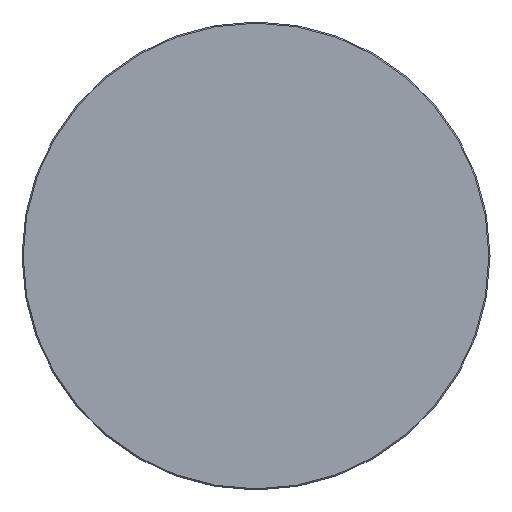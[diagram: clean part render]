
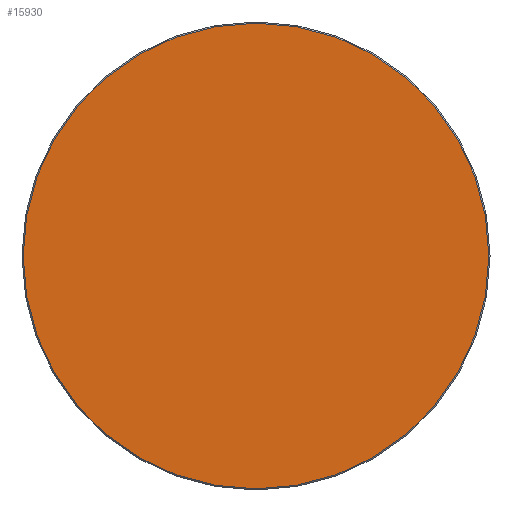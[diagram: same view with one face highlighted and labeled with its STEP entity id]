
A CAD part, top view. The second image highlights one B-rep face of the part: STEP entity #15930.
In plain terms, the highlighted planar face has unit normal (0, 0, 1).
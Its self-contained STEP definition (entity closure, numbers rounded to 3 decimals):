
#15855=CARTESIAN_POINT('',(0.,0.,20.));
#15856=DIRECTION('',(1.,0.,0.));
#15857=DIRECTION('',(0.,0.,1.));
#15858=AXIS2_PLACEMENT_3D('',#15855,#15857,#15856);
#15859=PLANE('',#15858);
#15860=CARTESIAN_POINT('',(-0.5,-298.5,20.));
#15861=VERTEX_POINT('',#15860);
#15862=CARTESIAN_POINT('',(0.5,-298.5,20.));
#15863=VERTEX_POINT('',#15862);
#15864=CARTESIAN_POINT('',(-0.5,-298.5,20.));
#15865=DIRECTION('',(1.,0.,0.));
#15866=VECTOR('',#15865,1.);
#15867=LINE('',#15864,#15866);
#15868=EDGE_CURVE('',#15861,#15863,#15867,.T.);
#15869=ORIENTED_EDGE('E105',*,*,#15868,.T.);
#15870=CARTESIAN_POINT('',(298.5,-0.5,20.));
#15871=VERTEX_POINT('',#15870);
#15872=CARTESIAN_POINT('',(0.5,-0.5,20.));
#15873=DIRECTION('',(0.,-1.,0.));
#15874=DIRECTION('',(0.,-0.,1.));
#15875=AXIS2_PLACEMENT_3D('',#15872,#15874,#15873);
#15876=CIRCLE('',#15875,298.);
#15877=EDGE_CURVE('',#15863,#15871,#15876,.T.);
#15878=ORIENTED_EDGE('E107',*,*,#15877,.T.);
#15879=CARTESIAN_POINT('',(298.5,0.5,20.));
#15880=VERTEX_POINT('',#15879);
#15881=CARTESIAN_POINT('',(298.5,-0.5,20.));
#15882=DIRECTION('',(0.,1.,0.));
#15883=VECTOR('',#15882,1.);
#15884=LINE('',#15881,#15883);
#15885=EDGE_CURVE('',#15871,#15880,#15884,.T.);
#15886=ORIENTED_EDGE('E109',*,*,#15885,.T.);
#15887=CARTESIAN_POINT('',(0.5,298.5,20.));
#15888=VERTEX_POINT('',#15887);
#15889=CARTESIAN_POINT('',(0.5,0.5,20.));
#15890=DIRECTION('',(1.,0.,0.));
#15891=DIRECTION('',(0.,0.,1.));
#15892=AXIS2_PLACEMENT_3D('',#15889,#15891,#15890);
#15893=CIRCLE('',#15892,298.);
#15894=EDGE_CURVE('',#15880,#15888,#15893,.T.);
#15895=ORIENTED_EDGE('E111',*,*,#15894,.T.);
#15896=CARTESIAN_POINT('',(-0.5,298.5,20.));
#15897=VERTEX_POINT('',#15896);
#15898=CARTESIAN_POINT('',(0.5,298.5,20.));
#15899=DIRECTION('',(-1.,0.,0.));
#15900=VECTOR('',#15899,1.);
#15901=LINE('',#15898,#15900);
#15902=EDGE_CURVE('',#15888,#15897,#15901,.T.);
#15903=ORIENTED_EDGE('E113',*,*,#15902,.T.);
#15904=CARTESIAN_POINT('',(-298.5,0.5,20.));
#15905=VERTEX_POINT('',#15904);
#15906=CARTESIAN_POINT('',(-0.5,0.5,20.));
#15907=DIRECTION('',(0.,1.,0.));
#15908=DIRECTION('',(0.,0.,1.));
#15909=AXIS2_PLACEMENT_3D('',#15906,#15908,#15907);
#15910=CIRCLE('',#15909,298.);
#15911=EDGE_CURVE('',#15897,#15905,#15910,.T.);
#15912=ORIENTED_EDGE('E115',*,*,#15911,.T.);
#15913=CARTESIAN_POINT('',(-298.5,-0.5,20.));
#15914=VERTEX_POINT('',#15913);
#15915=CARTESIAN_POINT('',(-298.5,0.5,20.));
#15916=DIRECTION('',(0.,-1.,0.));
#15917=VECTOR('',#15916,1.);
#15918=LINE('',#15915,#15917);
#15919=EDGE_CURVE('',#15905,#15914,#15918,.T.);
#15920=ORIENTED_EDGE('E117',*,*,#15919,.T.);
#15921=CARTESIAN_POINT('',(-0.5,-0.5,20.));
#15922=DIRECTION('',(-1.,0.,0.));
#15923=DIRECTION('',(-0.,0.,1.));
#15924=AXIS2_PLACEMENT_3D('',#15921,#15923,#15922);
#15925=CIRCLE('',#15924,298.);
#15926=EDGE_CURVE('',#15914,#15861,#15925,.T.);
#15927=ORIENTED_EDGE('E119',*,*,#15926,.T.);
#15928=EDGE_LOOP('',(#15869,#15878,#15886,#15895,#15903,#15912,#15920,#15927));
#15929=FACE_OUTER_BOUND('',#15928,.T.);
#15930=ADVANCED_FACE('F2',(#15929),#15859,.T.);
